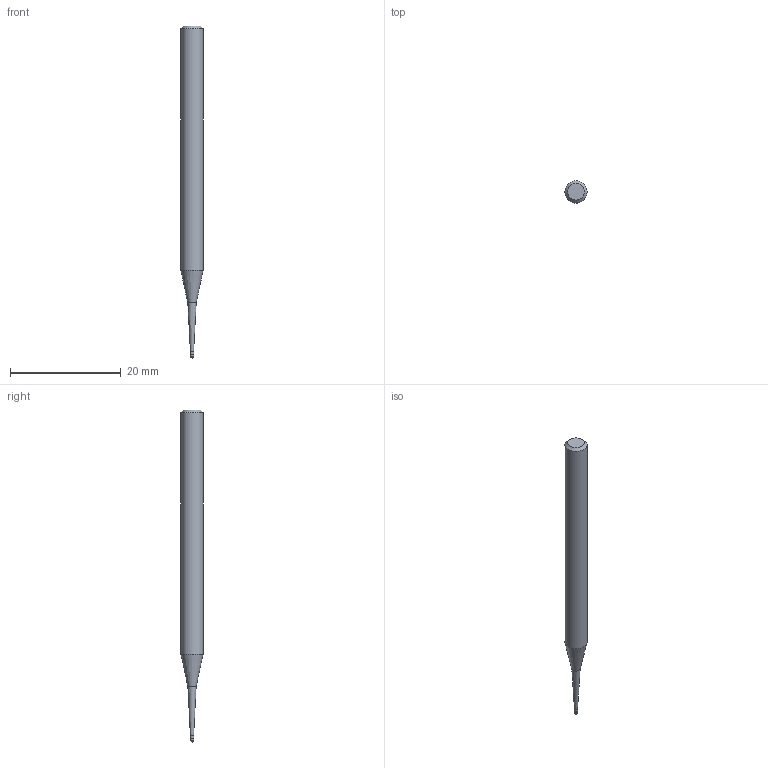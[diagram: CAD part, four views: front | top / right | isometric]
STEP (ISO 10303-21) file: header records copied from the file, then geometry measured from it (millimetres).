
FILE_DESCRIPTION((''),'2;1');
FILE_NAME('C:\Users\nsx150\AppData\Local\Temp\Mastercam 2021\SNAKH10GOD\TEMP.step','2021-10-21T13:31:41',(''),(''),'STEP Write','Mastercam 2021 ... CNC Software, Inc.','');
FILE_SCHEMA(('AUTOMOTIVE_DESIGN'));
Length unit declared in the file: millimetre
Products named in the file (1): None
Bounding box: 4 x 4 x 60 mm (x, y, z)
Volume: 599.3 mm3; surface area: 647.2 mm2
Topology: 2 solids, 2 shells, 10 faces, 16 edges, 9 vertices
Faces by surface type: plane 3, cylinder 3, cone 3, sphere 1
Full cylindrical faces by diameter (mm): 0.585 x1, 0.6 x1, 4 x1
Entity records: 232 total; most frequent: DIRECTION 40, CARTESIAN_POINT 28, AXIS2_PLACEMENT_3D 20, ORIENTED_EDGE 16, EDGE_LOOP 16, STYLED_ITEM 13, ADVANCED_FACE 10, FACE_BOUND 9
